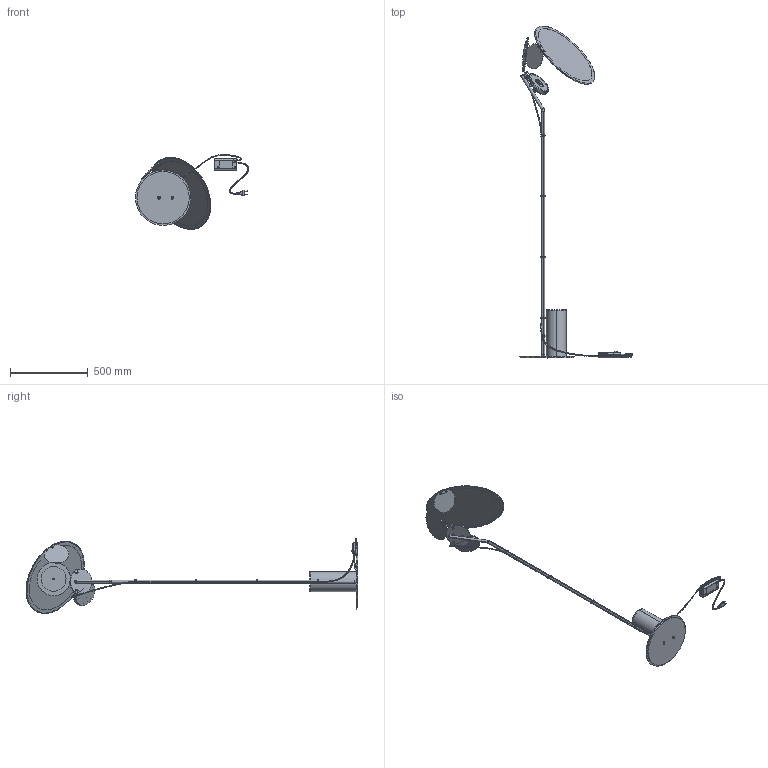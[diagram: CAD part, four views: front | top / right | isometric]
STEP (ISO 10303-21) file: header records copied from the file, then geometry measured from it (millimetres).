
FILE_DESCRIPTION (( 'STEP AP203' ), '1' );
FILE_NAME ('CUT-FLOOR_2.STEP', '2019-07-25T14:02:51', ( '' ), ( '' ), 'SwSTEP 2.0', 'SolidWorks 2019', '' );
FILE_SCHEMA (( 'CONFIG_CONTROL_DESIGN' ));
Length unit declared in the file: millimetre
Products named in the file (31): nipple_SACLA_CoronaPiana_12291_nikelato.STEP; AXO067-14_CUTFloorInterface.STEP; AXO067-08_CUTTopRing.STEP; AXO067-20_Blocccavo.STEP; AXO067-05_CUTHeatsinkLock.STEP; AXO067-10_CUTRingSupport.STEP; AXO067-11_CUTBracket_CNC.STEP; driver_led_multi_40W_RELCO_7040LED.STEP; Cablaggio KWIC Floor^AXO067B_CUT-FLOOR.STEP; AXO067F_CUT_default.STEP; AXO067-16_CUTFloorPostSpacer.STEP; AXO067-04_CUTHeatsink.STEP; AXO067-17_CUTBase.STEP; AXO067-21_CUTFloorPost.STEP; AXO067-18_CUTBaseCover.STEP; AXO067-06_CUTLensPlate.STEP; CUT-FLOOR_2.STEP; AXO067-07_CUTDisc.STEP; spina_tipo_L_2poli.STEP; AXO067-19_CUTBaseDecoration.STEP; AXO067-09_CUTBottomRing.STEP; AXO067E-CUTLightBlock_12LED.STEP; AXO067-03_CUTFrameHolder.STEP; AXO067-01_CUTFrame_Default_As Machined_.STEP; led_EA_CL082.STEP; dado_M4_zigrinato.STEP; AXO067D-CUT_Frame.STEP; AXO067-22_CUTFrameSpacer.STEP; CUT-FLOOR_2; AXO067-02_CUTFramePin.STEP; lente_protezione__67_EA_LM067.STEP
Assembly tree (37 placements, depth 5):
  CUT-FLOOR_2
    CUT-FLOOR_2.STEP
      AXO067F_CUT_default.STEP
        AXO067D-CUT_Frame.STEP
          AXO067-01_CUTFrame_Default_As Machined_.STEP
          AXO067-02_CUTFramePin.STEP
          AXO067-03_CUTFrameHolder.STEP
          AXO067-22_CUTFrameSpacer.STEP
        AXO067E-CUTLightBlock_12LED.STEP
          AXO067-04_CUTHeatsink.STEP
          AXO067-05_CUTHeatsinkLock.STEP
          AXO067-06_CUTLensPlate.STEP
          nipple_SACLA_CoronaPiana_12291_nikelato.STEP
          led_EA_CL082.STEP
          lente_protezione__67_EA_LM067.STEP
        AXO067-07_CUTDisc.STEP
        AXO067-08_CUTTopRing.STEP
        AXO067-09_CUTBottomRing.STEP
        AXO067-10_CUTRingSupport.STEP
      AXO067-21_CUTFloorPost.STEP
      AXO067-11_CUTBracket_CNC.STEP  x3
      AXO067-14_CUTFloorInterface.STEP
      AXO067-16_CUTFloorPostSpacer.STEP  x3
      AXO067-17_CUTBase.STEP
      AXO067-18_CUTBaseCover.STEP
      AXO067-19_CUTBaseDecoration.STEP
      AXO067-20_Blocccavo.STEP  x4
      driver_led_multi_40W_RELCO_7040LED.STEP
      spina_tipo_L_2poli.STEP
      Cablaggio KWIC Floor^AXO067B_CUT-FLOOR.STEP
      dado_M4_zigrinato.STEP
Bounding box: 725.77 x 2128.15 x 479.25 mm (x, y, z)
Volume: 3319794.4 mm3; surface area: 1891073.2 mm2
Topology: 38 solids, 38 shells, 2113 faces, 5205 edges, 3264 vertices
Faces by surface type: plane 953, cylinder 565, bspline 222, cone 164, torus 119, sphere 90
Entity records: 63852 total; most frequent: CARTESIAN_POINT 23117, DIRECTION 7788, ORIENTED_EDGE 7638, EDGE_CURVE 3819, AXIS2_PLACEMENT_3D 2885, VERTEX_POINT 2450, VECTOR 2018, LINE 2018
